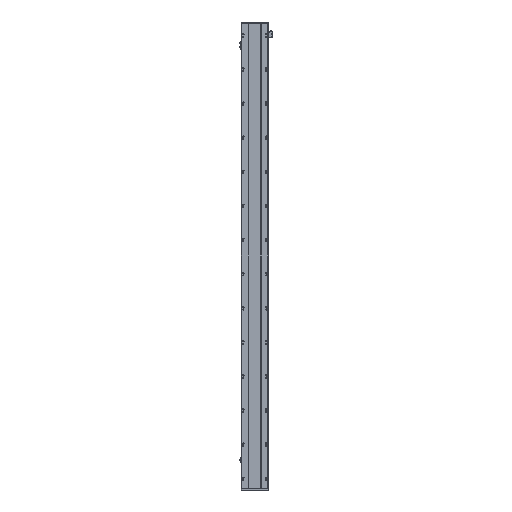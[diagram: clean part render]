
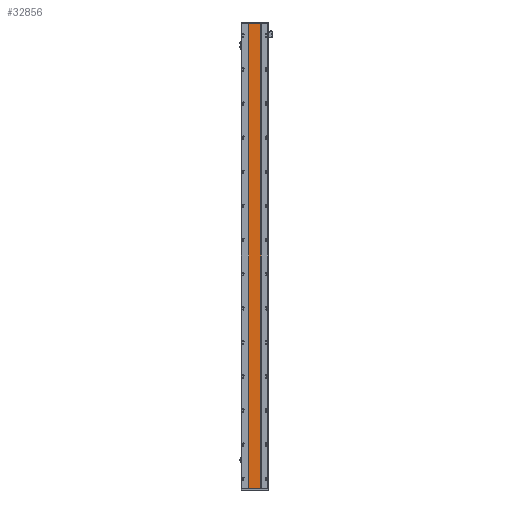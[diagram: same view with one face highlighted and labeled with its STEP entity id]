
A CAD part, front view. The second image highlights one B-rep face of the part: STEP entity #32856.
In plain terms, the highlighted planar face has unit normal (0, -1, 0).
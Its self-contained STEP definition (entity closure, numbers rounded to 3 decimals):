
#2899 = VERTEX_POINT ( 'NONE', #37204 ) ;
#3081 = ORIENTED_EDGE ( 'NONE', *, *, #18629, .T. ) ;
#3529 = DIRECTION ( 'NONE',  ( 0., 0., -1. ) ) ;
#5874 = VERTEX_POINT ( 'NONE', #14264 ) ;
#5892 = DIRECTION ( 'NONE',  ( 1., 0., 0. ) ) ;
#6395 = VECTOR ( 'NONE', #8294, 1000. ) ;
#8294 = DIRECTION ( 'NONE',  ( 0., 0., -1. ) ) ;
#12104 = CARTESIAN_POINT ( 'NONE',  ( 205.288, 16.9, 2944. ) ) ;
#13573 = CARTESIAN_POINT ( 'NONE',  ( 129.288, 16.9, 2944. ) ) ;
#14264 = CARTESIAN_POINT ( 'NONE',  ( 205.288, 16.9, 0. ) ) ;
#14421 = LINE ( 'NONE', #13573, #24076 ) ;
#18262 = EDGE_CURVE ( 'NONE', #2899, #18417, #14421, .T. ) ;
#18417 = VERTEX_POINT ( 'NONE', #37250 ) ;
#18431 = FACE_OUTER_BOUND ( 'NONE', #42989, .T. ) ;
#18629 = EDGE_CURVE ( 'NONE', #42454, #5874, #36001, .T. ) ;
#19315 = EDGE_CURVE ( 'NONE', #18417, #5874, #35963, .T. ) ;
#20682 = LINE ( 'NONE', #47113, #24711 ) ;
#21513 = DIRECTION ( 'NONE',  ( 0., 1., 0. ) ) ;
#22078 = ORIENTED_EDGE ( 'NONE', *, *, #18262, .F. ) ;
#24076 = VECTOR ( 'NONE', #46816, 1000. ) ;
#24711 = VECTOR ( 'NONE', #3529, 1000. ) ;
#24991 = ORIENTED_EDGE ( 'NONE', *, *, #27243, .T. ) ;
#26389 = AXIS2_PLACEMENT_3D ( 'NONE', #47025, #21513, #32191 ) ;
#26972 = CARTESIAN_POINT ( 'NONE',  ( 129.288, 16.9, 0. ) ) ;
#27243 = EDGE_CURVE ( 'NONE', #2899, #42454, #20682, .T. ) ;
#32191 = DIRECTION ( 'NONE',  ( -1., 0., 0. ) ) ;
#32856 = ADVANCED_FACE ( 'NONE', ( #18431 ), #43335, .F. ) ;
#35963 = LINE ( 'NONE', #12104, #6395 ) ;
#36001 = LINE ( 'NONE', #46435, #44539 ) ;
#37204 = CARTESIAN_POINT ( 'NONE',  ( 129.288, 16.9, 2944. ) ) ;
#37250 = CARTESIAN_POINT ( 'NONE',  ( 205.288, 16.9, 2944. ) ) ;
#42454 = VERTEX_POINT ( 'NONE', #26972 ) ;
#42989 = EDGE_LOOP ( 'NONE', ( #3081, #43838, #22078, #24991 ) ) ;
#43335 = PLANE ( 'NONE',  #26389 ) ;
#43838 = ORIENTED_EDGE ( 'NONE', *, *, #19315, .F. ) ;
#44539 = VECTOR ( 'NONE', #5892, 1000. ) ;
#46435 = CARTESIAN_POINT ( 'NONE',  ( 205.288, 16.9, 0. ) ) ;
#46816 = DIRECTION ( 'NONE',  ( 1., 0., 0. ) ) ;
#47025 = CARTESIAN_POINT ( 'NONE',  ( 205.288, 16.9, 2944. ) ) ;
#47113 = CARTESIAN_POINT ( 'NONE',  ( 129.288, 16.9, 2944. ) ) ;
